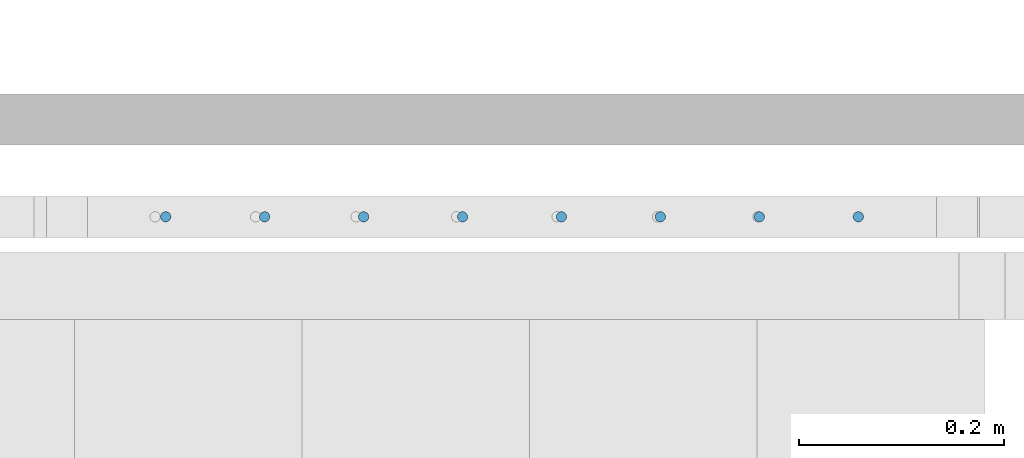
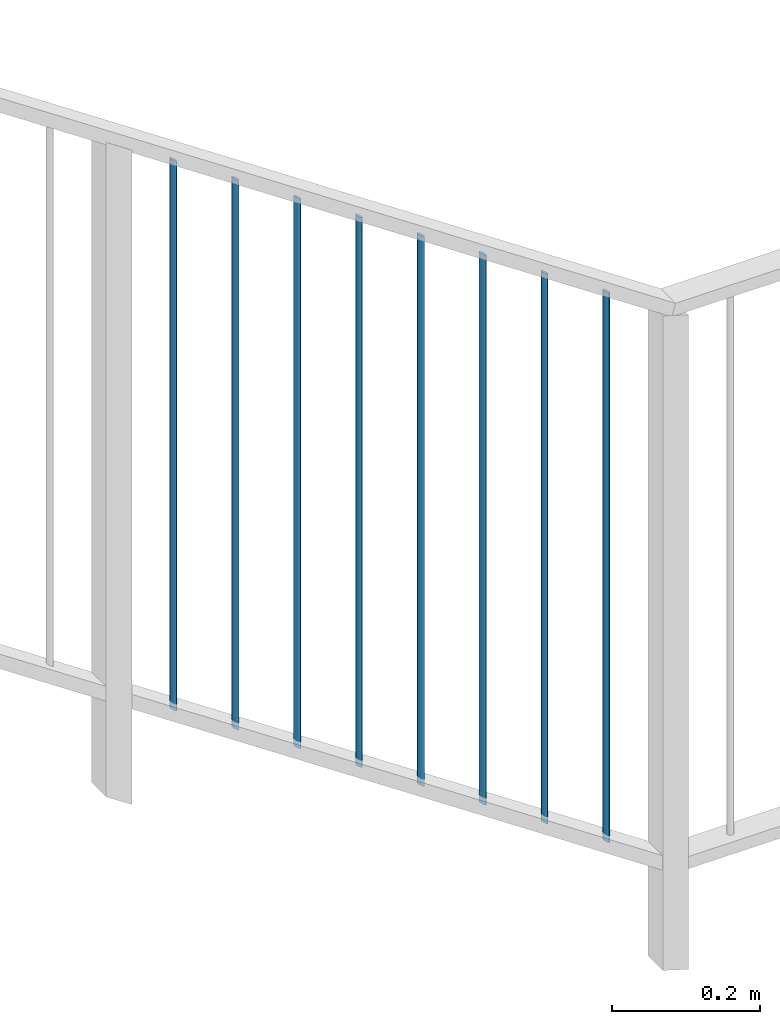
# One storey, part 34 of 135: 8 members, 1 element without a shape of its own.
"""IFC2X3 building model written with IfcOpenShell, lengths in millimetres."""

from ifc_helpers import new_model, entity, si_unit, converted_unit, derived_unit, money_unit, direction, frame, origin_with_axes, place, context, subcontext, project, spatial, faceted_brep, source, transform, mapped, material, type_object, type_shapes, element, aggregate, save


model = new_model("IFC2X3")

# Units and contexts
model_context = context("Model", 3, precision=0.01, world=origin_with_axes(), true_north=direction((0.0, 1.0)))
body_context = subcontext(model_context, "Body", "Model", "MODEL_VIEW")
ifc_project = project(units=[si_unit("LENGTHUNIT", "METRE", prefix="MILLI"), si_unit("AREAUNIT", "SQUARE_METRE"), si_unit("VOLUMEUNIT", "CUBIC_METRE"), converted_unit("PLANEANGLEUNIT", "DEGREE", entity("IfcPlaneAngleMeasure", 0.0174532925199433), si_unit("PLANEANGLEUNIT", "RADIAN"), dimensions=[0, 0, 0, 0, 0, 0, 0]), money_unit("EUR"), converted_unit("TIMEUNIT", "Year", entity("IfcTimeMeasure", 31557600.0), si_unit("TIMEUNIT", "SECOND"), dimensions=[0, 0, 1, 0, 0, 0, 0]), si_unit("MASSUNIT", "GRAM", prefix="KILO"), si_unit("THERMODYNAMICTEMPERATUREUNIT", "DEGREE_CELSIUS"), si_unit("LUMINOUSINTENSITYUNIT", "LUMEN"), si_unit("ENERGYUNIT", "JOULE", prefix="MEGA"), derived_unit("THERMALCONDUCTANCEUNIT", [(si_unit("POWERUNIT", "WATT"), 1), (si_unit("LENGTHUNIT", "METRE"), -1), (si_unit("THERMODYNAMICTEMPERATUREUNIT", "KELVIN"), -1)]), derived_unit("SPECIFICHEATCAPACITYUNIT", [(si_unit("ENERGYUNIT", "JOULE"), 1), (si_unit("MASSUNIT", "GRAM", prefix="KILO"), -1), (si_unit("THERMODYNAMICTEMPERATUREUNIT", "KELVIN"), -1)]), derived_unit("MASSDENSITYUNIT", [(si_unit("MASSUNIT", "GRAM", prefix="KILO"), 1), (si_unit("VOLUMEUNIT", "CUBIC_METRE"), -1)])], contexts=[model_context])

# Site, building, storey
site_placement = place(None, origin_with_axes())
site = spatial("IfcSite", under=ifc_project, at=site_placement, Name="Site", CompositionType="ELEMENT")
building_placement = place(site_placement, origin_with_axes())
building = spatial("IfcBuilding", under=site, at=building_placement, Name="Naam gebouw", CompositionType="ELEMENT")
storey_placement = place(building_placement, origin_with_axes())
storey = spatial("IfcBuildingStorey", under=building, at=storey_placement, Name="Begane grond N", CompositionType="ELEMENT", Elevation=0.0)

# Railing, members
railing_type = type_object("IfcRailingType", Name="Railing Type", PredefinedType="NOTDEFINED")
railing_placement = place(storey_placement, frame((56236.62159597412, 21185.9124251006, 4176.0), z_axis=(0.0, 0.0, 1.0), x_axis=(1.0, 0.0, 0.0)))
railing = element("IfcRailing", 1, at=railing_placement, inside=storey, type_object=railing_type, Name="_Reling-x", PredefinedType="NOTDEFINED")
ifc_material = material(Name="Metaal - Staal C")
member_type = type_object("IfcMemberType", Name="IfcMember", PredefinedType="MEMBER")
shared_shape = source(origin_with_axes(), body_context, "Body", "Brep", [
    faceted_brep([(0.0, -5.0, -3.357180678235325), (0.8682408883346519, -4.92403876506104, -3.306177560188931), (0.8682408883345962, -4.92403876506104, 904.19382243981), (0.0, -5.0, 904.1428193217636), (-0.8682408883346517, -4.92403876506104, -3.306177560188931), (-1.710100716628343, -4.698463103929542, -3.154717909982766), (-2.500000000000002, -4.330127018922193, -2.907403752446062), (-3.213938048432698, -3.830222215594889, -2.571749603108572), (-3.830222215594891, -3.213938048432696, -2.15795414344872), (-4.330127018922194, -2.5, -1.678590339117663), (-4.698463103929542, -1.710100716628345, -1.148223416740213), (-4.924038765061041, -0.86824088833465, -0.5829683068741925), (-5.0, 0.0, 0.0), (-4.92403876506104, 0.8682408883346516, 0.5829683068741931), (-4.698463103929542, 1.710100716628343, 1.148223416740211), (-4.330127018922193, 2.500000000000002, 1.678590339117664), (-3.83022221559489, 3.213938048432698, 2.15795414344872), (-3.213938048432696, 3.83022221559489, 2.571749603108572), (-2.5, 4.330127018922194, 2.907403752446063), (-1.710100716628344, 4.698463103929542, 3.154717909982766), (-0.8682408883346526, 4.92403876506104, 3.306177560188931), (0.0, 5.0, 3.357180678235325), (0.8682408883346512, 4.92403876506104, 3.306177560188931), (1.710100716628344, 4.698463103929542, 3.154717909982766), (2.5, 4.330127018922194, 2.907403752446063), (3.213938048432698, 3.83022221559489, 2.571749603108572), (3.83022221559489, 3.213938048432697, 2.15795414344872), (4.330127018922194, 2.499999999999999, 1.678590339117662), (4.698463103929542, 1.710100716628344, 1.148223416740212), (4.92403876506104, 0.8682408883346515, 0.5829683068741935), (5.0, 0.0, 0.0), (4.92403876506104, -0.8682408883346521, -0.5829683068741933), (4.698463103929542, -1.710100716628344, -1.148223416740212), (4.330127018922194, -2.5, -1.678590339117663), (3.83022221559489, -3.213938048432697, -2.157954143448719), (3.213938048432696, -3.83022221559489, -2.571749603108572), (2.5, -4.330127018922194, -2.907403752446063), (1.710100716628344, -4.698463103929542, -3.154717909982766), (1.710100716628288, -4.698463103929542, 904.3452820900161), (2.499999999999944, -4.330127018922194, 904.5925962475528), (3.213938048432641, -3.83022221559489, 904.9282503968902), (3.830222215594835, -3.213938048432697, 905.3420458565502), (4.330127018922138, -2.5, 905.8214096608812), (4.698463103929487, -1.710100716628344, 906.3517765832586), (4.924038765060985, -0.8682408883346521, 906.9170316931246), (4.999999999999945, 0.0, 907.4999999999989), (4.924038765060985, 0.8682408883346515, 908.0829683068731), (4.698463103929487, 1.710100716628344, 908.6482234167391), (4.330127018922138, 2.499999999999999, 909.1785903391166), (3.830222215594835, 3.213938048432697, 909.6579541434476), (3.213938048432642, 3.83022221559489, 910.0717496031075), (2.499999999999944, 4.330127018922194, 910.4074037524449), (1.710100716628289, 4.698463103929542, 910.6547179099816), (0.8682408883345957, 4.92403876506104, 910.8061775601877), (0.0, 5.0, 910.8571806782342), (-0.8682408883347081, 4.92403876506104, 910.8061775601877), (-1.710100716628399, 4.698463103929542, 910.6547179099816), (-2.500000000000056, 4.330127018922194, 910.4074037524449), (-3.213938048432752, 3.83022221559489, 910.0717496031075), (-3.830222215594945, 3.213938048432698, 909.6579541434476), (-4.330127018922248, 2.500000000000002, 909.1785903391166), (-4.698463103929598, 1.710100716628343, 908.6482234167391), (-4.924038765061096, 0.8682408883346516, 908.0829683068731), (-5.000000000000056, 0.0, 907.4999999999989), (-4.924038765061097, -0.86824088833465, 906.9170316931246), (-4.698463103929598, -1.710100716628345, 906.3517765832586), (-4.330127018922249, -2.5, 905.8214096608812), (-3.830222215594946, -3.213938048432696, 905.3420458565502), (-3.213938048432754, -3.830222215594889, 904.9282503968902), (-2.500000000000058, -4.330127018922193, 904.5925962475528), (-1.710100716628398, -4.698463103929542, 904.3452820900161), (-0.8682408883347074, -4.92403876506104, 904.19382243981)], [[[0, 1, 2, 3]], [[0, 4, 5, 6, 7, 8, 9, 10, 11, 12, 13, 14, 15, 16, 17, 18, 19, 20, 21, 22, 23, 24, 25, 26, 27, 28, 29, 30, 31, 32, 33, 34, 35, 36, 37, 1]], [[1, 37, 38, 2]], [[3, 2, 38, 39, 40, 41, 42, 43, 44, 45, 46, 47, 48, 49, 50, 51, 52, 53, 54, 55, 56, 57, 58, 59, 60, 61, 62, 63, 64, 65, 66, 67, 68, 69, 70, 71]], [[4, 0, 3, 71]], [[5, 4, 71, 70]], [[6, 5, 70, 69]], [[7, 6, 69, 68]], [[8, 7, 68, 67]], [[9, 8, 67, 66]], [[10, 9, 66, 65]], [[11, 10, 65, 64]], [[12, 11, 64, 63]], [[13, 12, 63, 62]], [[14, 13, 62, 61]], [[15, 14, 61, 60]], [[16, 15, 60, 59]], [[17, 16, 59, 58]], [[18, 17, 58, 57]], [[19, 18, 57, 56]], [[20, 19, 56, 55]], [[21, 20, 55, 54]], [[22, 21, 54, 53]], [[23, 22, 53, 52]], [[24, 23, 52, 51]], [[25, 24, 51, 50]], [[26, 25, 50, 49]], [[27, 26, 49, 48]], [[28, 27, 48, 47]], [[29, 28, 47, 46]], [[30, 29, 46, 45]], [[31, 30, 45, 44]], [[32, 31, 44, 43]], [[33, 32, 43, 42]], [[34, 33, 42, 41]], [[35, 34, 41, 40]], [[36, 35, 40, 39]], [[37, 36, 39, 38]]]),
])
type_shapes(member_type, [shared_shape])
member_1_placement = place(railing_placement, frame((2650.288178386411, 2465.000000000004, 1871.490319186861), z_axis=(0.0, 0.0, 1.0), x_axis=(1.0, 0.0, 0.0)))
member_1 = element("IfcMember", 2, at=member_1_placement, type_object=member_type, material=ifc_material, Name="_Spijlen-x", ObjectType="MEMBER", context=body_context, shape_type="MappedRepresentation", body=[
    mapped(shared_shape, transform((0.0, 0.0, 0.0), x_axis=(0.0, 1.0, 0.0), y_axis=(-1.0, 0.0, 0.0), z_axis=(0.0, 0.0, 1.0))),
])
member_2_placement = place(railing_placement, frame((2457.219308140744, 2465.000000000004, 2001.123735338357), z_axis=(0.0, 0.0, 1.0), x_axis=(1.0, 0.0, 0.0)))
member_2 = element("IfcMember", 3, at=member_2_placement, type_object=member_type, material=ifc_material, Name="_Spijlen-x", ObjectType="MEMBER", context=body_context, shape_type="MappedRepresentation", body=[
    mapped(shared_shape, transform((0.0, 0.0, 0.0), x_axis=(0.0, 1.0, 0.0), y_axis=(-1.0, 0.0, 0.0), z_axis=(0.0, 0.0, 1.0))),
])
member_3_placement = place(railing_placement, frame((2553.753743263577, 2465.000000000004, 1936.307027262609), z_axis=(0.0, 0.0, 1.0), x_axis=(1.0, 0.0, 0.0)))
member_3 = element("IfcMember", 4, at=member_3_placement, type_object=member_type, material=ifc_material, Name="_Spijlen-x", ObjectType="MEMBER", context=body_context, shape_type="MappedRepresentation", body=[
    mapped(shared_shape, transform((0.0, 0.0, 0.0), x_axis=(0.0, 1.0, 0.0), y_axis=(-1.0, 0.0, 0.0), z_axis=(0.0, 0.0, 1.0))),
])
member_4_placement = place(railing_placement, frame((2360.684873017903, 2465.000000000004, 2065.940443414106), z_axis=(0.0, 0.0, 1.0), x_axis=(1.0, 0.0, 0.0)))
member_4 = element("IfcMember", 5, at=member_4_placement, type_object=member_type, material=ifc_material, Name="_Spijlen-x", ObjectType="MEMBER", context=body_context, shape_type="MappedRepresentation", body=[
    mapped(shared_shape, transform((0.0, 0.0, 0.0), x_axis=(0.0, 1.0, 0.0), y_axis=(-1.0, 0.0, 0.0), z_axis=(0.0, 0.0, 1.0))),
])
member_5_placement = place(railing_placement, frame((2264.150437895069, 2465.000000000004, 2130.757151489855), z_axis=(0.0, 0.0, 1.0), x_axis=(1.0, 0.0, 0.0)))
member_5 = element("IfcMember", 6, at=member_5_placement, type_object=member_type, material=ifc_material, Name="_Spijlen-x", ObjectType="MEMBER", context=body_context, shape_type="MappedRepresentation", body=[
    mapped(shared_shape, transform((0.0, 0.0, 0.0), x_axis=(0.0, 1.0, 0.0), y_axis=(-1.0, 0.0, 0.0), z_axis=(0.0, 0.0, 1.0))),
])
member_6_placement = place(railing_placement, frame((2167.616002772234, 2465.000000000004, 2195.573859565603), z_axis=(0.0, 0.0, 1.0), x_axis=(1.0, 0.0, 0.0)))
member_6 = element("IfcMember", 7, at=member_6_placement, type_object=member_type, material=ifc_material, Name="_Spijlen-x", ObjectType="MEMBER", context=body_context, shape_type="MappedRepresentation", body=[
    mapped(shared_shape, transform((0.0, 0.0, 0.0), x_axis=(0.0, 1.0, 0.0), y_axis=(-1.0, 0.0, 0.0), z_axis=(0.0, 0.0, 1.0))),
])
member_7_placement = place(railing_placement, frame((2071.081567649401, 2465.000000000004, 2260.390567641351), z_axis=(0.0, 0.0, 1.0), x_axis=(1.0, 0.0, 0.0)))
member_7 = element("IfcMember", 8, at=member_7_placement, type_object=member_type, material=ifc_material, Name="_Spijlen-x", ObjectType="MEMBER", context=body_context, shape_type="MappedRepresentation", body=[
    mapped(shared_shape, transform((0.0, 0.0, 0.0), x_axis=(0.0, 1.0, 0.0), y_axis=(-1.0, 0.0, 0.0), z_axis=(0.0, 0.0, 1.0))),
])
member_8_placement = place(railing_placement, frame((1974.547132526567, 2465.000000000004, 2325.207275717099), z_axis=(0.0, 0.0, 1.0), x_axis=(1.0, 0.0, 0.0)))
member_8 = element("IfcMember", 9, at=member_8_placement, type_object=member_type, material=ifc_material, Name="_Spijlen-x", ObjectType="MEMBER", context=body_context, shape_type="MappedRepresentation", body=[
    mapped(shared_shape, transform((0.0, 0.0, 0.0), x_axis=(0.0, 1.0, 0.0), y_axis=(-1.0, 0.0, 0.0), z_axis=(0.0, 0.0, 1.0))),
])
aggregate(railing, [member_1, member_2, member_3, member_4, member_5, member_6, member_7, member_8])

save(model, "model.ifc")
